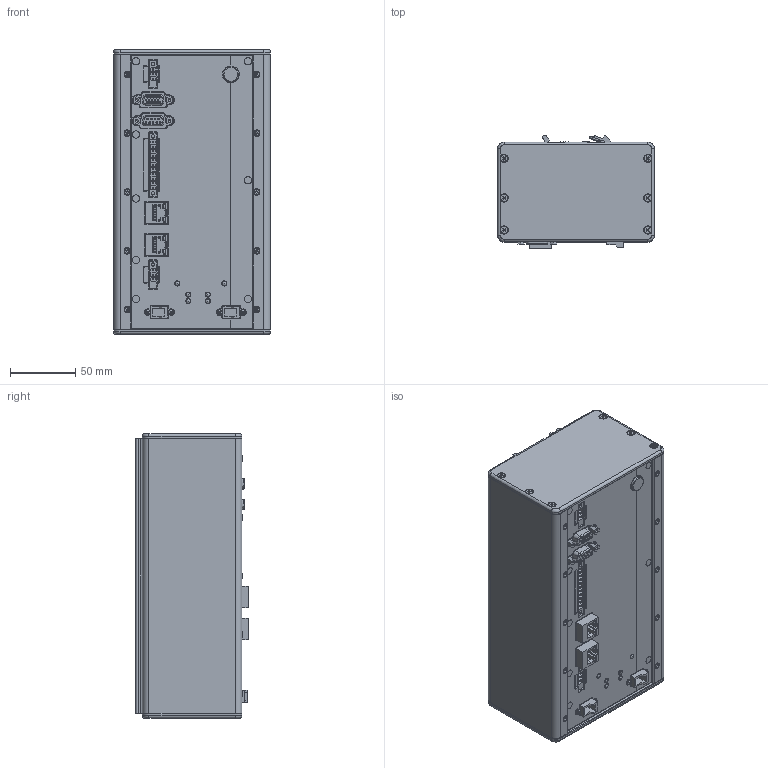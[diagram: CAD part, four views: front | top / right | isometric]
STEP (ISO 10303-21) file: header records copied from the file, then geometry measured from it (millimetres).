
FILE_DESCRIPTION (( 'STEP AP203' ), '1' );
FILE_NAME ('2612012 BG Controller IFC2421 1Kanal.STEP', '2015-12-08T15:36:12', ( 'MICRO-EPSILON Optronic GmbH' ), ( 'MICRO-EPSILON Optronic GmbH' ), 'SwSTEP 2.0', 'SolidWorks 2015', '' );
FILE_SCHEMA (( 'CONFIG_CONTROL_DESIGN' ));
Products named in the file (1): 2612012 BG Controller IFC2421 1Kanal
Bounding box: 120 x 85.91 x 218 mm (x, y, z)
Volume: 1918647.2 mm3; surface area: 170466.3 mm2
Topology: 6 solids, 35 shells, 2761 faces, 7082 edges, 4461 vertices
Faces by surface type: plane 1798, cylinder 596, cone 264, torus 72, bspline 21, sphere 10
Full cylindrical faces by diameter (mm): 0.6 x24, 0.97 x2, 1.36 x1, 1.5 x12, 2 x4, 2.2 x8, 2.5 x18, 2.8 x6, 2.9 x6, 3 x27, 3.2 x12, 3.4 x14, 3.6 x12, 3.9 x6, 4 x4, 4.5 x12, 5 x14, 5.5 x17, 5.54 x1, 5.6 x8, 6.5 x4, 11.6 x1, 11.8 x1, 12.8 x1, 12.9 x1
Entity records: 80436 total; most frequent: CARTESIAN_POINT 15886, DIRECTION 13207, ORIENTED_EDGE 12994, EDGE_CURVE 6497, AXIS2_PLACEMENT_3D 4511, VERTEX_POINT 4289, LINE 4185, VECTOR 4185
